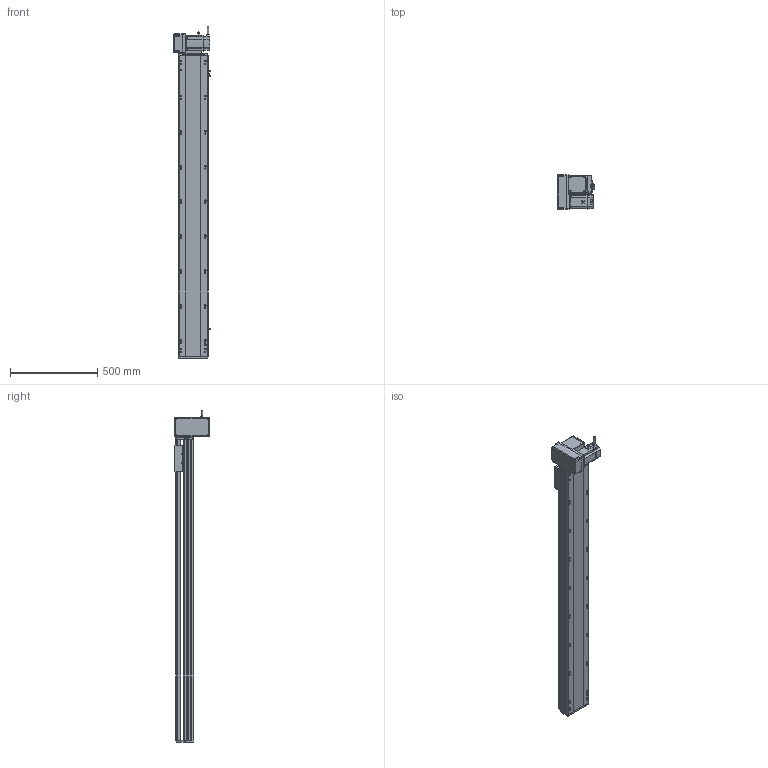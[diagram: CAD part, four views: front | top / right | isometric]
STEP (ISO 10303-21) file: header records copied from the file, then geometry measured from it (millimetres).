
FILE_DESCRIPTION (( 'STEP AP214' ), '1' );
FILE_NAME ('RTB17S-XX-1450-LM-M75-C4.STEP', '2025-12-12T00:41:12', ( '' ), ( '' ), 'SwSTEP 2.0', 'SolidWorks 2018', '' );
FILE_SCHEMA (( 'AUTOMOTIVE_DESIGN' ));
Length unit declared in the file: millimetre
Products named in the file (15): RTB17S-LM-々湍釱蚾饜-750W^RTB17S-XX-XX-LM-M75-C4; EE672^RTB17S-XX-XX-LM-M75-C4; RTB22S-GY-018P^RTB17S-LM-々湍釱蚾饜-750W_RTB17S-XX-XX-LM-M75-C4; RTB17-R-011菁釱^RTB17S-XX-XX-LM-M75-C4; RTB22S-GY-005P^RTB17S-LM-々湍釱蚾饜-750W_RTB17S-XX-XX-LM-M75-C4; RTB22S-GY-017P^RTB17S-LM-々湍釱蚾饜-750W_RTB17S-XX-XX-LM-M75-C4; RTH13-BL-012覜茼え俋离^RTB17S-賑釱_RTB17S-XX-XX-LM-M75-C4; RTB17S-L-007奻裔^RTB17S-XX-XX-LM-M75-C4; 750W萇儂^RTB17S-XX-XX-LM-M75-C4; RTB17S-XX-1450-LM-M75-C4; RTB17S-賑釱^RTB17S-XX-XX-LM-M75-C4; RTB17S-L-004-賑釱^RTB17S-賑釱_RTB17S-XX-XX-LM-M75-C4; RTB17S-L-014-T20-P75--々湍釱^RTB17S-LM-々湍釱蚾饜-750W_RTB17S-XX-XX-LM-M75-C4; RTB17S-L-001-耜醱啣^RTB17S-XX-XX-LM-M75-C4; RTB22S-GY-008-M75--萇儂啣^RTB17S-LM-々湍釱蚾饜-750W_RTB17S-XX-XX-LM-M75-C4
Assembly tree (17 placements, depth 3):
  RTB17S-XX-1450-LM-M75-C4
    RTB17-R-011菁釱^RTB17S-XX-XX-LM-M75-C4
    EE672^RTB17S-XX-XX-LM-M75-C4  x3
    RTB17S-L-001-耜醱啣^RTB17S-XX-XX-LM-M75-C4
    RTB17S-賑釱^RTB17S-XX-XX-LM-M75-C4
      RTB17S-L-004-賑釱^RTB17S-賑釱_RTB17S-XX-XX-LM-M75-C4
      RTH13-BL-012覜茼え俋离^RTB17S-賑釱_RTB17S-XX-XX-LM-M75-C4
    RTB17S-L-007奻裔^RTB17S-XX-XX-LM-M75-C4
    750W萇儂^RTB17S-XX-XX-LM-M75-C4
    RTB17S-LM-々湍釱蚾饜-750W^RTB17S-XX-XX-LM-M75-C4
      RTB17S-L-014-T20-P75--々湍釱^RTB17S-LM-々湍釱蚾饜-750W_RTB17S-XX-XX-LM-M75-C4
      RTB22S-GY-005P^RTB17S-LM-々湍釱蚾饜-750W_RTB17S-XX-XX-LM-M75-C4
      RTB22S-GY-017P^RTB17S-LM-々湍釱蚾饜-750W_RTB17S-XX-XX-LM-M75-C4  x2
      RTB22S-GY-008-M75--萇儂啣^RTB17S-LM-々湍釱蚾饜-750W_RTB17S-XX-XX-LM-M75-C4
      RTB22S-GY-018P^RTB17S-LM-々湍釱蚾饜-750W_RTB17S-XX-XX-LM-M75-C4
Bounding box: 210.4 x 200 x 1902.2 mm (x, y, z)
Volume: 15008918.3 mm3; surface area: 2625465.8 mm2
Topology: 17 solids, 17 shells, 2137 faces, 5944 edges, 3842 vertices
Faces by surface type: plane 976, cylinder 745, bspline 294, cone 110, sphere 8, torus 4
Entity records: 60406 total; most frequent: CARTESIAN_POINT 17808, ORIENTED_EDGE 8732, DIRECTION 8132, EDGE_CURVE 4366, AXIS2_PLACEMENT_3D 2862, VERTEX_POINT 2846, VECTOR 2408, LINE 2408
